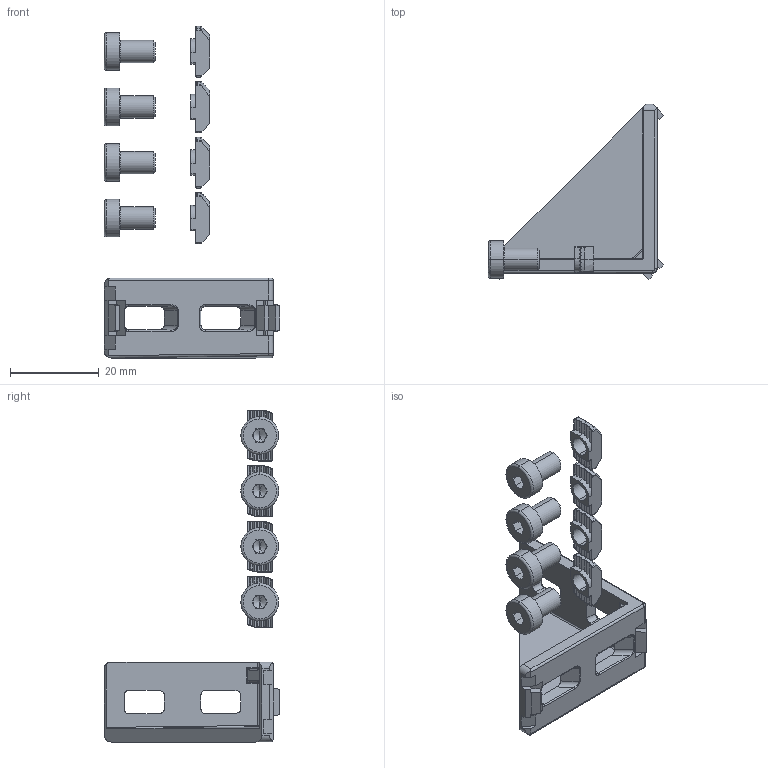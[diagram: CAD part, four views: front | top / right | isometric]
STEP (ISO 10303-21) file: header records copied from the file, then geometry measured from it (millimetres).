
FILE_DESCRIPTION (( 'STEP AP214' ), '1' );
FILE_NAME ('093w202n06s03.STEP', '2014-09-03T08:00:08', ( '' ), ( '' ), 'SwSTEP 2.0', 'SolidWorks 2014', '' );
FILE_SCHEMA (( 'AUTOMOTIVE_DESIGN' ));
Length unit declared in the file: millimetre
Products named in the file (4): 096h06510_096h06510; socket head thin cap screw_din_DIN 7984 - M5 x 8 --- 5.6C; 093w202n06_093 w 202 n06 s04; 093w202n06s03
Assembly tree (9 placements, depth 2):
  093w202n06s03
    093w202n06_093 w 202 n06 s04
    socket head thin cap screw_din_DIN 7984 - M5 x 8 --- 5.6C  x4
    096h06510_096h06510  x4
Bounding box: 39.5 x 39.5 x 74.75 mm (x, y, z)
Volume: 6822.7 mm3; surface area: 6777.1 mm2
Topology: 9 solids, 9 shells, 564 faces, 1496 edges, 946 vertices
Faces by surface type: plane 310, cylinder 149, torus 51, bspline 30, cone 24
Entity records: 8960 total; most frequent: CARTESIAN_POINT 2654, ORIENTED_EDGE 1408, DIRECTION 1137, EDGE_CURVE 704, VERTEX_POINT 445, VECTOR 417, LINE 417, AXIS2_PLACEMENT_3D 360
